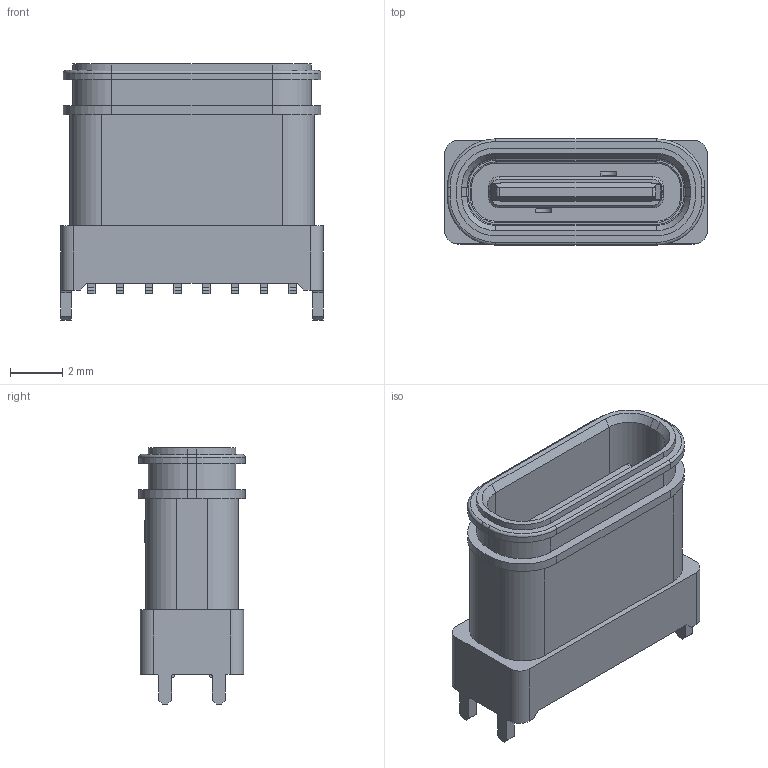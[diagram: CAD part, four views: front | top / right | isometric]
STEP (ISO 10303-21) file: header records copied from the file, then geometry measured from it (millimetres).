
FILE_DESCRIPTION (( 'STEP AP214' ), '1' );
FILE_NAME ('U5400-16PN8.8LF.STEP', '2026-07-31T02:47:50', ( '' ), ( '' ), 'SwSTEP 2.0', 'SolidWorks 2024', '' );
FILE_SCHEMA (( 'AUTOMOTIVE_DESIGN' ));
Length unit declared in the file: millimetre
Products named in the file (1): U5400-16PN8.8LF
Bounding box: 10.04 x 4.06 x 9.8 mm (x, y, z)
Volume: 180.9 mm3; surface area: 576.9 mm2
Topology: 1 solids, 32 shells, 856 faces, 2192 edges, 1429 vertices
Faces by surface type: plane 583, cylinder 168, cone 48, bspline 29, torus 28
Entity records: 27520 total; most frequent: CARTESIAN_POINT 6745, ORIENTED_EDGE 4376, DIRECTION 4119, EDGE_CURVE 2188, VECTOR 1649, LINE 1649, VERTEX_POINT 1429, AXIS2_PLACEMENT_3D 1235
